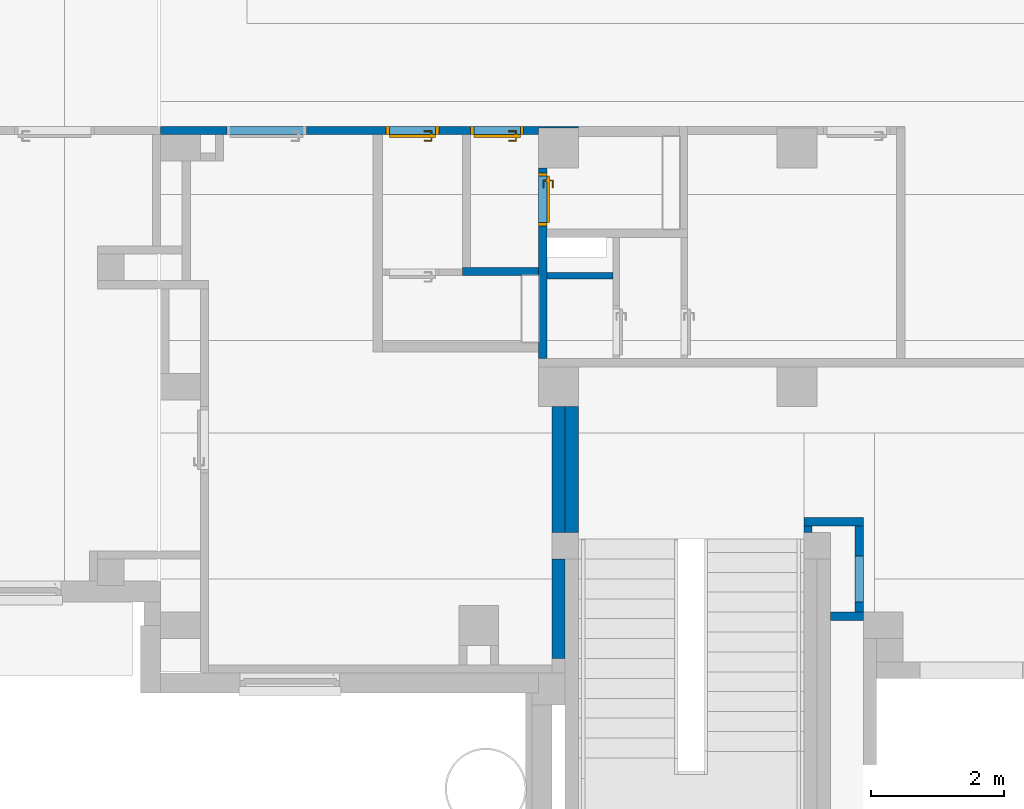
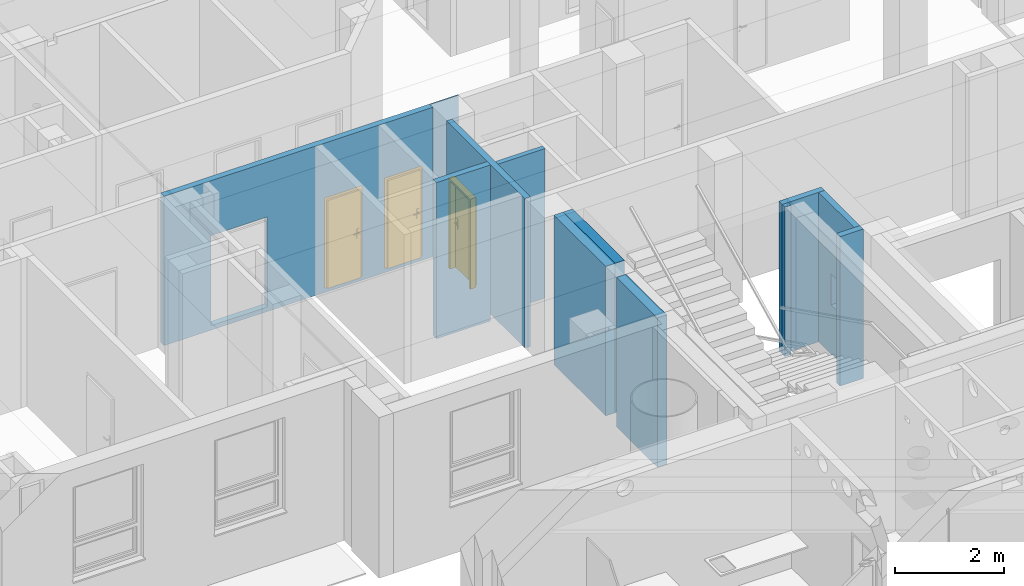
# One storey, part 34 of 140: 11 walls, 3 doors, 5 openings.
"""IFC4 building model written with IfcOpenShell, lengths in metres."""

from ifc_helpers import new_model, entity, si_unit, converted_unit, derived_unit, frame, frame_2d, origin, origin_with_axes, place, context, subcontext, project, spatial, polyline, rectangle, outline, extrude, closed_shell, open_shell, surface_model, source, transform, mapped, material, layer, layer_set, layer_usage, type_object, element, fill, save


model = new_model("IFC4")

# Units and contexts
model_context = context("Model", 3, precision=1e-05, world=origin())
body_context = subcontext(model_context, "Body", "Model", "MODEL_VIEW")
ifc_project = project(units=[si_unit("LENGTHUNIT", "METRE"), si_unit("AREAUNIT", "SQUARE_METRE"), si_unit("VOLUMEUNIT", "CUBIC_METRE"), si_unit("MASSUNIT", "GRAM", prefix="KILO"), converted_unit("PLANEANGLEUNIT", "DEGREE", entity("IfcPlaneAngleMeasure", 0.0174532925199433), si_unit("PLANEANGLEUNIT", "RADIAN"), dimensions=[0, 0, 0, 0, 0, 0, 0]), derived_unit("THERMALTRANSMITTANCEUNIT", [(si_unit("POWERUNIT", "WATT"), 1), (si_unit("THERMODYNAMICTEMPERATUREUNIT", "KELVIN"), -1), (si_unit("LENGTHUNIT", "METRE"), -2)]), derived_unit("VOLUMETRICFLOWRATEUNIT", [(si_unit("LENGTHUNIT", "METRE"), 3), (converted_unit("TIMEUNIT", "hour", entity("IfcTimeMeasure", 3600.0), si_unit("TIMEUNIT", "SECOND"), dimensions=[0, 0, 1, 0, 0, 0, 0]), -1), (si_unit("LENGTHUNIT", "METRE"), -1)])], contexts=[model_context])

# Site, building, storey
site_placement = place(None, origin())
site = spatial("IfcSite", under=ifc_project, at=site_placement, Name="3. ASŘ", CompositionType="ELEMENT")
building_placement = place(site_placement, origin())
building = spatial("IfcBuilding", under=site, at=building_placement, Name="Pavilon C", CompositionType="ELEMENT")
storey_placement = place(building_placement, origin())
storey = spatial("IfcBuildingStorey", under=building, at=storey_placement, Name="Půdorys 1.NP", CompositionType="ELEMENT", Elevation=0.0)

# Walls
ifc_material_1 = material(Name="ZELEZOBETONOVÁ KCE")
ifc_layer_1 = layer(ifc_material_1, 0.2)
ifc_layer_set_1 = layer_set([ifc_layer_1])
ifc_layer_usage_1 = layer_usage(ifc_layer_set_1, "AXIS2", "POSITIVE", 0.0)
wall_1_placement = place(storey_placement, frame((30.85, 1.4, -0.1), z_axis=(0.0, 0.0, 1.0), x_axis=(0.0, 1.0, 0.0)))
element("IfcWall", 1, at=wall_1_placement, inside=storey, material=ifc_layer_usage_1, Name="ZELEZOBETONOVÁ KCE", context=body_context, shape_type="SweptSolid", body=[
    extrude(rectangle(XDim=1.9, YDim=0.2, at=frame_2d((0.949999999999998, 0.1), x_axis=(1.0, 0.0))), origin_with_axes(), (0.0, 0.0, 1.0), 3.35),
])
ifc_material_2 = material(Name="ZELEZOBETONOVÁ KCE")
ifc_layer_2 = layer(ifc_material_2, 0.2)
ifc_layer_set_2 = layer_set([ifc_layer_2])
ifc_layer_usage_2 = layer_usage(ifc_layer_set_2, "AXIS2", "POSITIVE", 0.0)
wall_2_placement = place(storey_placement, frame((30.85, -0.499999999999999, -0.1), z_axis=(0.0, 0.0, 1.0), x_axis=(0.0, 1.0, 0.0)))
element("IfcWall", 2, at=wall_2_placement, inside=storey, material=ifc_layer_usage_2, Name="ZELEZOBETONOVÁ KCE", context=body_context, shape_type="SweptSolid", body=[
    extrude(rectangle(XDim=1.5, YDim=0.2, at=frame_2d((0.75, 0.1), x_axis=(1.0, 0.0))), origin_with_axes(), (0.0, 0.0, 1.0), 3.35),
])
ifc_material_3 = material(Name="ZELEZOBETONOVÁ KCE")
ifc_layer_3 = layer(ifc_material_3, 0.2)
ifc_layer_set_3 = layer_set([ifc_layer_3])
ifc_layer_usage_3 = layer_usage(ifc_layer_set_3, "AXIS2", "POSITIVE", 0.0)
wall_3_placement = place(storey_placement, frame((31.05, 1.4, -0.1), z_axis=(0.0, 0.0, 1.0), x_axis=(0.0, 1.0, 0.0)))
element("IfcWall", 3, at=wall_3_placement, inside=storey, material=ifc_layer_usage_3, Name="ZELEZOBETONOVÁ KCE", context=body_context, shape_type="SweptSolid", body=[
    extrude(rectangle(XDim=1.9, YDim=0.2, at=frame_2d((0.949999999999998, 0.1), x_axis=(1.0, 0.0))), origin_with_axes(), (0.0, 0.0, 1.0), 3.35),
])
ifc_material_4 = material(Name="ZDIVO Z CDm")
ifc_layer_4 = layer(ifc_material_4, 0.125)
ifc_layer_set_4 = layer_set([ifc_layer_4])
ifc_layer_usage_4 = layer_usage(ifc_layer_set_4, "AXIS2", "POSITIVE", 0.0)
wall_4_placement = place(storey_placement, frame((35.35, 0.199999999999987, -0.1), z_axis=(0.0, 0.0, 1.0), x_axis=(-1.0, 1.13686837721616e-16, 0.0)))
element("IfcWall", 4, at=wall_4_placement, inside=storey, material=ifc_layer_usage_4, Name="ZDIVO Z CDm", context=body_context, shape_type="SweptSolid", body=[
    extrude(rectangle(XDim=0.5, YDim=0.125, at=frame_2d((0.25, 0.0625), x_axis=(1.0, 0.0))), origin_with_axes(), (0.0, 0.0, 1.0), 3.35),
])
ifc_material_5 = material(Name="ZDIVO Z CDm")
ifc_layer_5 = layer(ifc_material_5, 0.125)
ifc_layer_set_5 = layer_set([ifc_layer_5])
ifc_layer_usage_5 = layer_usage(ifc_layer_set_5, "AXIS2", "POSITIVE", 0.0)
wall_5_placement = place(storey_placement, frame((34.45, 1.5, -0.1), z_axis=(0.0, 0.0, 1.0), x_axis=(0.0, -1.0, 0.0)))
element("IfcWall", 5, at=wall_5_placement, inside=storey, material=ifc_layer_usage_5, Name="ZDIVO Z CDm", context=body_context, shape_type="SweptSolid", body=[
    extrude(rectangle(XDim=0.1, YDim=0.125, at=frame_2d((0.05, 0.0625), x_axis=(1.0, 0.0))), origin_with_axes(), (0.0, 0.0, 1.0), 3.35),
])
ifc_material_6 = material(Name="ZDIVO Z CDm")
ifc_layer_6 = layer(ifc_material_6, 0.125)
ifc_layer_set_6 = layer_set([ifc_layer_6])
ifc_layer_usage_6 = layer_usage(ifc_layer_set_6, "AXIS2", "POSITIVE", 0.0)
wall_6_placement = place(storey_placement, frame((34.45, 1.5, -0.1)))
element("IfcWall", 6, at=wall_6_placement, inside=storey, material=ifc_layer_usage_6, Name="ZDIVO Z CDm", context=body_context, shape_type="SweptSolid", body=[
    extrude(rectangle(XDim=0.900000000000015, YDim=0.125, at=frame_2d((0.450000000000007, 0.0625), x_axis=(1.0, 0.0))), origin_with_axes(), (0.0, 0.0, 1.0), 3.35),
])

# Wall, opening
ifc_material_7 = material(Name="ZDIVO Z CDm")
ifc_layer_7 = layer(ifc_material_7, 0.125)
ifc_layer_set_7 = layer_set([ifc_layer_7])
ifc_layer_usage_7 = layer_usage(ifc_layer_set_7, "AXIS2", "POSITIVE", 0.0)
wall_7_placement = place(storey_placement, frame((35.35, 0.199999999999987, -0.1), z_axis=(0.0, 0.0, 1.0), x_axis=(0.0, 1.0, 0.0)))
wall_7 = element("IfcWall", 7, at=wall_7_placement, inside=storey, material=ifc_layer_usage_7, Name="ZDIVO Z CDm", context=body_context, shape_type="SweptSolid", body=[
    extrude(rectangle(XDim=1.30000000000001, YDim=0.125, at=frame_2d((0.650000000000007, 0.0625), x_axis=(1.0, 0.0))), origin_with_axes(), (0.0, 0.0, 1.0), 3.35),
])
opening_1_placement = place(wall_7_placement, frame((0.15, 0.0, 1.1), z_axis=(0.0, 1.0, 0.0), x_axis=(0.0, 0.0, 1.0)))
element("IfcOpeningElement", 8, at=opening_1_placement, cuts=wall_7, Name="Okenní otvor", ObjectType="Opening", context=body_context, shape_type="SweptSolid", body=[
    extrude(outline(polyline([(0.0, 0.7), (0.7, 0.7), (0.7, 0.0), (0.0, 0.0), (0.0, 0.7)])), origin_with_axes(), (0.0, 0.0, 1.0), 0.125),
])

# Wall, opening, door
ifc_material_8 = material(Name="ZDIVO Z CDm")
ifc_layer_8 = layer(ifc_material_8, 0.125)
ifc_layer_set_8 = layer_set([ifc_layer_8])
ifc_layer_usage_8 = layer_usage(ifc_layer_set_8, "AXIS2", "POSITIVE", 0.0)
wall_8_placement = place(storey_placement, frame((30.45, 6.9, -0.1), z_axis=(0.0, 0.0, 1.0), x_axis=(0.0, -1.0, 0.0)))
wall_8 = element("IfcWall", 9, at=wall_8_placement, inside=storey, material=ifc_layer_usage_8, Name="ZDIVO Z CDm", context=body_context, shape_type="SweptSolid", body=[
    extrude(rectangle(XDim=2.875, YDim=0.125, at=frame_2d((1.4375, 0.0625), x_axis=(1.0, 0.0))), origin_with_axes(), (0.0, 0.0, 1.0), 3.35),
])
opening_2_placement = place(wall_8_placement, frame((0.875000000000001, 0.125, 0.1), z_axis=(0.0, -1.0, 0.0), x_axis=(0.0, 0.0, 1.0)))
opening_2 = element("IfcOpeningElement", 10, at=opening_2_placement, cuts=wall_8, Name="Dveřní otvor", ObjectType="Opening", context=body_context, shape_type="SweptSolid", body=[
    extrude(outline(polyline([(0.0, 0.8), (2.02, 0.8), (2.02, 0.0), (0.0, 0.0), (0.0, 0.8)])), origin_with_axes(), (0.0, 0.0, 1.0), 0.125),
])
door_type_1 = type_object("IfcDoorType", Name="D101", OperationType="NOTDEFINED", ParameterTakesPrecedence=False, PredefinedType="DOOR")
shared_shape_1 = source(origin_with_axes(), body_context, "Body", "SurfaceModel", [
    surface_model("IfcShellBasedSurfaceModel", [(0.0, 0.125, 2.02), (0.0, 0.125, -7.65404249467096e-18), (0.05, 0.125, -7.65404249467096e-18), (0.05, 0.125, 2.02), (0.0, 0.0, 7.65404249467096e-18), (0.0, 2.41584530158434e-16, 2.02), (0.05, 2.41584530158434e-16, 2.02), (0.05, 0.0, 7.65404249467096e-18)], [closed_shell([[[0, 1, 2, 3]], [[4, 5, 6, 7]], [[1, 0, 5, 4]], [[2, 1, 4, 7]], [[3, 2, 7, 6]], [[0, 3, 6, 5]]], orient=[[False], [False], [False], [False], [False], [False]])]),
    surface_model("IfcShellBasedSurfaceModel", [(0.75, 0.125, 2.02), (0.75, 0.125, -7.65404249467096e-18), (0.8, 0.125, -7.65404249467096e-18), (0.8, 0.125, 2.02), (0.75, 0.0, 7.65404249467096e-18), (0.75, 2.41584530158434e-16, 2.02), (0.8, 2.41584530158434e-16, 2.02), (0.8, 0.0, 7.65404249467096e-18)], [closed_shell([[[0, 1, 2, 3]], [[4, 5, 6, 7]], [[1, 0, 5, 4]], [[2, 1, 4, 7]], [[3, 2, 7, 6]], [[0, 3, 6, 5]]], orient=[[False], [False], [False], [False], [False], [False]])]),
    surface_model("IfcShellBasedSurfaceModel", [(0.05, 0.125, 2.02), (0.05, 0.125, 1.97), (0.75, 0.125, 1.97), (0.75, 0.125, 2.02), (0.05, 2.41584530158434e-16, 1.97), (0.05, 2.41584530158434e-16, 2.02), (0.75, 2.41584530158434e-16, 2.02), (0.75, 2.41584530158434e-16, 1.97)], [closed_shell([[[0, 1, 2, 3]], [[4, 5, 6, 7]], [[1, 0, 5, 4]], [[2, 1, 4, 7]], [[3, 2, 7, 6]], [[0, 3, 6, 5]]], orient=[[False], [False], [False], [False], [False], [False]])]),
    surface_model("IfcShellBasedSurfaceModel", [(0.05, 0.165, 1.97), (0.05, 0.165, -1.25526296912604e-17), (0.75, 0.165, -1.25526296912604e-17), (0.75, 0.165, 1.97), (0.05, 0.125, -7.65404249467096e-18), (0.05, 0.125, 1.97), (0.75, 0.125, 1.97), (0.75, 0.125, -7.65404249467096e-18)], [closed_shell([[[0, 1, 2, 3]], [[4, 5, 6, 7]], [[1, 0, 5, 4]], [[2, 1, 4, 7]], [[3, 2, 7, 6]], [[0, 3, 6, 5]]], orient=[[False], [False], [False], [False], [False], [False]])]),
    surface_model("IfcShellBasedSurfaceModel", [(0.66, 0.125, 1.125), (0.66, 0.125, 0.91), (0.71, 0.125, 0.91), (0.71, 0.125, 1.125), (0.66, 0.115, 0.91), (0.66, 0.115, 1.125), (0.71, 0.115, 1.125), (0.71, 0.115, 0.91)], [closed_shell([[[0, 1, 2, 3]], [[4, 5, 6, 7]], [[1, 0, 5, 4]], [[2, 1, 4, 7]], [[3, 2, 7, 6]], [[0, 3, 6, 5]]], orient=[[False], [False], [False], [False], [False], [False]])]),
    surface_model("IfcShellBasedSurfaceModel", [(0.685, 0.115, 1.06), (0.68, 0.115, 1.05866025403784), (0.676339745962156, 0.115, 1.055), (0.675, 0.115, 1.05), (0.676339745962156, 0.115, 1.045), (0.68, 0.115, 1.04133974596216), (0.685, 0.115, 1.04), (0.69, 0.115, 1.04133974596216), (0.693660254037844, 0.115, 1.045), (0.695, 0.115, 1.05), (0.693660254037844, 0.115, 1.055), (0.69, 0.115, 1.05866025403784), (0.69, 0.0700000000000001, 1.05866025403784), (0.685, 0.0750000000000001, 1.06), (0.693660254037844, 0.0663397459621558, 1.055), (0.695, 0.0650000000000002, 1.05), (0.693660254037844, 0.0663397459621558, 1.045), (0.69, 0.0700000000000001, 1.04133974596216), (0.685, 0.0750000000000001, 1.04), (0.68, 0.0800000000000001, 1.04133974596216), (0.676339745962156, 0.0836602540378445, 1.045), (0.675, 0.0850000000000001, 1.05), (0.676339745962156, 0.0836602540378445, 1.055), (0.68, 0.0800000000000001, 1.05866025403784), (0.57, 0.0700000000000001, 1.05866025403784), (0.57, 0.0750000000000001, 1.06), (0.57, 0.0663397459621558, 1.055), (0.57, 0.0650000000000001, 1.05), (0.57, 0.0663397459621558, 1.045), (0.57, 0.0700000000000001, 1.04133974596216), (0.57, 0.0750000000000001, 1.04), (0.57, 0.0800000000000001, 1.04133974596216), (0.57, 0.0836602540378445, 1.045), (0.57, 0.0850000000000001, 1.05), (0.57, 0.0836602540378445, 1.055), (0.57, 0.0800000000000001, 1.05866025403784)], [open_shell([[[0, 1, 2, 3, 4, 5, 6, 7, 8, 9, 10, 11]], [[0, 11, 12, 13]], [[11, 10, 14, 12]], [[10, 9, 15, 14]], [[9, 8, 16, 15]], [[8, 7, 17, 16]], [[7, 6, 18, 17]], [[6, 5, 19, 18]], [[5, 4, 20, 19]], [[4, 3, 21, 20]], [[3, 2, 22, 21]], [[2, 1, 23, 22]], [[1, 0, 13, 23]], [[13, 12, 24, 25]], [[12, 14, 26, 24]], [[14, 15, 27, 26]], [[15, 16, 28, 27]], [[16, 17, 29, 28]], [[17, 18, 30, 29]], [[18, 19, 31, 30]], [[19, 20, 32, 31]], [[20, 21, 33, 32]], [[21, 22, 34, 33]], [[22, 23, 35, 34]], [[23, 13, 25, 35]]], orient=[[False], [False], [False], [False], [False], [False], [False], [False], [False], [False], [False], [False], [False], [False], [False], [False], [False], [False], [False], [False], [False], [False], [False], [False], [False]])]),
    surface_model("IfcShellBasedSurfaceModel", [(0.66, 0.165, 1.125), (0.71, 0.165, 1.125), (0.71, 0.165, 0.91), (0.66, 0.165, 0.91), (0.66, 0.175, 0.91), (0.71, 0.175, 0.91), (0.71, 0.175, 1.125), (0.66, 0.175, 1.125)], [closed_shell([[[0, 1, 2, 3]], [[4, 5, 6, 7]], [[3, 4, 7, 0]], [[2, 5, 4, 3]], [[1, 6, 5, 2]], [[0, 7, 6, 1]]], orient=[[False], [False], [False], [False], [False], [False]])]),
    surface_model("IfcShellBasedSurfaceModel", [(0.685, 0.175, 1.06), (0.69, 0.175, 1.05866025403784), (0.693660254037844, 0.175, 1.055), (0.695, 0.175, 1.05), (0.693660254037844, 0.175, 1.045), (0.69, 0.175, 1.04133974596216), (0.685, 0.175, 1.04), (0.68, 0.175, 1.04133974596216), (0.676339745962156, 0.175, 1.045), (0.675, 0.175, 1.05), (0.676339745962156, 0.175, 1.055), (0.68, 0.175, 1.05866025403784), (0.685, 0.215, 1.06), (0.69, 0.22, 1.05866025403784), (0.693660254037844, 0.223660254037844, 1.055), (0.695, 0.225, 1.05), (0.693660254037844, 0.223660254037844, 1.045), (0.69, 0.22, 1.04133974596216), (0.685, 0.215, 1.04), (0.68, 0.21, 1.04133974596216), (0.676339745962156, 0.206339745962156, 1.045), (0.675, 0.205, 1.05), (0.676339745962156, 0.206339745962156, 1.055), (0.68, 0.21, 1.05866025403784), (0.57, 0.215, 1.06), (0.57, 0.22, 1.05866025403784), (0.57, 0.223660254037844, 1.055), (0.57, 0.225, 1.05), (0.57, 0.223660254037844, 1.045), (0.57, 0.22, 1.04133974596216), (0.57, 0.215, 1.04), (0.57, 0.21, 1.04133974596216), (0.57, 0.206339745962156, 1.045), (0.57, 0.205, 1.05), (0.57, 0.206339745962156, 1.055), (0.57, 0.21, 1.05866025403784)], [open_shell([[[0, 1, 2, 3, 4, 5, 6, 7, 8, 9, 10, 11]], [[0, 12, 13, 1]], [[1, 13, 14, 2]], [[2, 14, 15, 3]], [[3, 15, 16, 4]], [[4, 16, 17, 5]], [[5, 17, 18, 6]], [[6, 18, 19, 7]], [[7, 19, 20, 8]], [[8, 20, 21, 9]], [[9, 21, 22, 10]], [[10, 22, 23, 11]], [[11, 23, 12, 0]], [[12, 24, 25, 13]], [[13, 25, 26, 14]], [[14, 26, 27, 15]], [[15, 27, 28, 16]], [[16, 28, 29, 17]], [[17, 29, 30, 18]], [[18, 30, 31, 19]], [[19, 31, 32, 20]], [[20, 32, 33, 21]], [[21, 33, 34, 22]], [[22, 34, 35, 23]], [[23, 35, 24, 12]]], orient=[[False], [False], [False], [False], [False], [False], [False], [False], [False], [False], [False], [False], [False], [False], [False], [False], [False], [False], [False], [False], [False], [False], [False], [False], [False]])]),
])
door_1_placement = place(opening_2_placement, frame((0.0, -1.81898940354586e-15, 0.125000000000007), z_axis=(1.0, 0.0, 0.0), x_axis=(0.0, 1.0, -2.44929359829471e-16)))
door_1 = element("IfcDoor", 11, at=door_1_placement, inside=storey, type_object=door_type_1, Name="D101", OverallHeight=2.02, OverallWidth=0.8, context=body_context, shape_type="MappedRepresentation", body=[
    mapped(shared_shape_1, transform((0.0, 0.0, 0.0), x_axis=(1.0, 0.0, 0.0), y_axis=(0.0, -1.0, 0.0), z_axis=(0.0, 0.0, 1.0), scale=1.0)),
])
fill(opening_2, door_1)

# Wall, openings, doors
ifc_material_9 = material(Name="ZDIVO Z CDm")
ifc_layer_9 = layer(ifc_material_9, 0.125)
ifc_layer_set_9 = layer_set([ifc_layer_9])
ifc_layer_usage_9 = layer_usage(ifc_layer_set_9, "AXIS2", "POSITIVE", 0.0)
wall_9_placement = place(storey_placement, frame((31.05, 7.525, -0.1), z_axis=(0.0, 0.0, 1.0), x_axis=(-1.0, 0.0, 0.0)))
wall_9 = element("IfcWall", 12, at=wall_9_placement, inside=storey, material=ifc_layer_usage_9, Name="ZDIVO Z CDm", context=body_context, shape_type="SweptSolid", body=[
    extrude(outline(polyline([(-6.3, -0.125), (0.0, -0.125), (0.0, 0.0), (-5.7, 0.0), (-5.7, -0.0999999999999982), (-6.3, -0.0999999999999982), (-6.3, -0.125)])), frame((6.3, 0.125, 0.0), z_axis=(0.0, 0.0, 1.0), x_axis=(1.0, 0.0, 0.0)), (0.0, 0.0, 1.0), 3.35),
])
opening_3_placement = place(wall_9_placement, frame((4.1, 0.0, 0.1), z_axis=(0.0, 1.0, 0.0), x_axis=(0.0, 0.0, 1.0)))
element("IfcOpeningElement", 13, at=opening_3_placement, cuts=wall_9, Name="Dveřní otvor", ObjectType="Opening", context=body_context, shape_type="SweptSolid", body=[
    extrude(outline(polyline([(0.0, 1.2), (2.02, 1.2), (2.02, 0.0), (0.0, 0.0), (0.0, 1.2)])), origin_with_axes(), (0.0, 0.0, 1.0), 0.125),
])
opening_4_placement = place(wall_9_placement, frame((1.62499999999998, 0.125, 0.1), z_axis=(0.0, -1.0, 0.0), x_axis=(0.0, 0.0, 1.0)))
opening_4 = element("IfcOpeningElement", 14, at=opening_4_placement, cuts=wall_9, Name="Dveřní otvor", ObjectType="Opening", context=body_context, shape_type="SweptSolid", body=[
    extrude(outline(polyline([(0.0, 0.8), (2.02, 0.8), (2.02, 0.0), (0.0, 0.0), (0.0, 0.8)])), origin_with_axes(), (0.0, 0.0, 1.0), 0.125),
])
opening_5_placement = place(wall_9_placement, frame((2.09999999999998, 0.0, 0.1), z_axis=(0.0, 1.0, 0.0), x_axis=(0.0, 0.0, 1.0)))
opening_5 = element("IfcOpeningElement", 15, at=opening_5_placement, cuts=wall_9, Name="Dveřní otvor", ObjectType="Opening", context=body_context, shape_type="SweptSolid", body=[
    extrude(outline(polyline([(0.0, 0.8), (2.02, 0.8), (2.02, 0.0), (0.0, 0.0), (0.0, 0.8)])), origin_with_axes(), (0.0, 0.0, 1.0), 0.125),
])
door_type_2 = type_object("IfcDoorType", Name="D101", OperationType="NOTDEFINED", ParameterTakesPrecedence=False, PredefinedType="DOOR")
door_2_placement = place(opening_4_placement, frame((0.0, 0.0, 0.125), z_axis=(1.0, 0.0, 0.0), x_axis=(0.0, 1.0, -1.22464679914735e-16)))
door_2 = element("IfcDoor", 16, at=door_2_placement, inside=storey, type_object=door_type_2, Name="D101", OverallHeight=2.02, OverallWidth=0.8, context=body_context, shape_type="MappedRepresentation", body=[
    mapped(shared_shape_1, transform((0.0, 0.0, 0.0), x_axis=(1.0, 0.0, 0.0), y_axis=(0.0, -1.0, 0.0), z_axis=(0.0, 0.0, 1.0), scale=1.0)),
])
fill(opening_4, door_2)
door_type_3 = type_object("IfcDoorType", Name="D101", OperationType="NOTDEFINED", ParameterTakesPrecedence=False, PredefinedType="DOOR")
shared_shape_2 = source(origin_with_axes(), body_context, "Body", "SurfaceModel", [
    surface_model("IfcShellBasedSurfaceModel", [(0.0, 0.125, 2.02), (0.0, 0.125, -7.65404249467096e-18), (0.05, 0.125, -7.65404249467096e-18), (0.05, 0.125, 2.02), (0.0, 0.0, 7.65404249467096e-18), (0.0, 2.41584530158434e-16, 2.02), (0.05, 2.41584530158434e-16, 2.02), (0.05, 0.0, 7.65404249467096e-18)], [closed_shell([[[0, 1, 2, 3]], [[4, 5, 6, 7]], [[1, 0, 5, 4]], [[2, 1, 4, 7]], [[3, 2, 7, 6]], [[0, 3, 6, 5]]], orient=[[False], [False], [False], [False], [False], [False]])]),
    surface_model("IfcShellBasedSurfaceModel", [(0.75, 0.125, 2.02), (0.75, 0.125, -7.65404249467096e-18), (0.8, 0.125, -7.65404249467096e-18), (0.8, 0.125, 2.02), (0.75, 0.0, 7.65404249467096e-18), (0.75, 2.41584530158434e-16, 2.02), (0.8, 2.41584530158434e-16, 2.02), (0.8, 0.0, 7.65404249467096e-18)], [closed_shell([[[0, 1, 2, 3]], [[4, 5, 6, 7]], [[1, 0, 5, 4]], [[2, 1, 4, 7]], [[3, 2, 7, 6]], [[0, 3, 6, 5]]], orient=[[False], [False], [False], [False], [False], [False]])]),
    surface_model("IfcShellBasedSurfaceModel", [(0.05, 0.125, 2.02), (0.05, 0.125, 1.97), (0.75, 0.125, 1.97), (0.75, 0.125, 2.02), (0.05, 2.41584530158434e-16, 1.97), (0.05, 2.41584530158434e-16, 2.02), (0.75, 2.41584530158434e-16, 2.02), (0.75, 2.41584530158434e-16, 1.97)], [closed_shell([[[0, 1, 2, 3]], [[4, 5, 6, 7]], [[1, 0, 5, 4]], [[2, 1, 4, 7]], [[3, 2, 7, 6]], [[0, 3, 6, 5]]], orient=[[False], [False], [False], [False], [False], [False]])]),
    surface_model("IfcShellBasedSurfaceModel", [(0.05, 0.165, 1.97), (0.05, 0.165, -1.25526296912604e-17), (0.75, 0.165, -1.25526296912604e-17), (0.75, 0.165, 1.97), (0.05, 0.125, -7.65404249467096e-18), (0.05, 0.125, 1.97), (0.75, 0.125, 1.97), (0.75, 0.125, -7.65404249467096e-18)], [closed_shell([[[0, 1, 2, 3]], [[4, 5, 6, 7]], [[1, 0, 5, 4]], [[2, 1, 4, 7]], [[3, 2, 7, 6]], [[0, 3, 6, 5]]], orient=[[False], [False], [False], [False], [False], [False]])]),
    surface_model("IfcShellBasedSurfaceModel", [(0.66, 0.125, 1.125), (0.66, 0.125, 0.91), (0.71, 0.125, 0.91), (0.71, 0.125, 1.125), (0.66, 0.115, 0.91), (0.66, 0.115, 1.125), (0.71, 0.115, 1.125), (0.71, 0.115, 0.91)], [closed_shell([[[0, 1, 2, 3]], [[4, 5, 6, 7]], [[1, 0, 5, 4]], [[2, 1, 4, 7]], [[3, 2, 7, 6]], [[0, 3, 6, 5]]], orient=[[False], [False], [False], [False], [False], [False]])]),
    surface_model("IfcShellBasedSurfaceModel", [(0.685, 0.115, 1.06), (0.68, 0.115, 1.05866025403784), (0.676339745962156, 0.115, 1.055), (0.675, 0.115, 1.05), (0.676339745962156, 0.115, 1.045), (0.68, 0.115, 1.04133974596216), (0.685, 0.115, 1.04), (0.69, 0.115, 1.04133974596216), (0.693660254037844, 0.115, 1.045), (0.695, 0.115, 1.05), (0.693660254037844, 0.115, 1.055), (0.69, 0.115, 1.05866025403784), (0.69, 0.0700000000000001, 1.05866025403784), (0.685, 0.0750000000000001, 1.06), (0.693660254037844, 0.0663397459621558, 1.055), (0.695, 0.0650000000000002, 1.05), (0.693660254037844, 0.0663397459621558, 1.045), (0.69, 0.0700000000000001, 1.04133974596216), (0.685, 0.0750000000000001, 1.04), (0.68, 0.0800000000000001, 1.04133974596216), (0.676339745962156, 0.0836602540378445, 1.045), (0.675, 0.0850000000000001, 1.05), (0.676339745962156, 0.0836602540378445, 1.055), (0.68, 0.0800000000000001, 1.05866025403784), (0.57, 0.0700000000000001, 1.05866025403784), (0.57, 0.0750000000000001, 1.06), (0.57, 0.0663397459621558, 1.055), (0.57, 0.0650000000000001, 1.05), (0.57, 0.0663397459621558, 1.045), (0.57, 0.0700000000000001, 1.04133974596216), (0.57, 0.0750000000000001, 1.04), (0.57, 0.0800000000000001, 1.04133974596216), (0.57, 0.0836602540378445, 1.045), (0.57, 0.0850000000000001, 1.05), (0.57, 0.0836602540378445, 1.055), (0.57, 0.0800000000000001, 1.05866025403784)], [open_shell([[[0, 1, 2, 3, 4, 5, 6, 7, 8, 9, 10, 11]], [[0, 11, 12, 13]], [[11, 10, 14, 12]], [[10, 9, 15, 14]], [[9, 8, 16, 15]], [[8, 7, 17, 16]], [[7, 6, 18, 17]], [[6, 5, 19, 18]], [[5, 4, 20, 19]], [[4, 3, 21, 20]], [[3, 2, 22, 21]], [[2, 1, 23, 22]], [[1, 0, 13, 23]], [[13, 12, 24, 25]], [[12, 14, 26, 24]], [[14, 15, 27, 26]], [[15, 16, 28, 27]], [[16, 17, 29, 28]], [[17, 18, 30, 29]], [[18, 19, 31, 30]], [[19, 20, 32, 31]], [[20, 21, 33, 32]], [[21, 22, 34, 33]], [[22, 23, 35, 34]], [[23, 13, 25, 35]]], orient=[[False], [False], [False], [False], [False], [False], [False], [False], [False], [False], [False], [False], [False], [False], [False], [False], [False], [False], [False], [False], [False], [False], [False], [False], [False]])]),
    surface_model("IfcShellBasedSurfaceModel", [(0.66, 0.165, 1.125), (0.71, 0.165, 1.125), (0.71, 0.165, 0.91), (0.66, 0.165, 0.91), (0.66, 0.175, 0.91), (0.71, 0.175, 0.91), (0.71, 0.175, 1.125), (0.66, 0.175, 1.125)], [closed_shell([[[0, 1, 2, 3]], [[4, 5, 6, 7]], [[3, 4, 7, 0]], [[2, 5, 4, 3]], [[1, 6, 5, 2]], [[0, 7, 6, 1]]], orient=[[False], [False], [False], [False], [False], [False]])]),
    surface_model("IfcShellBasedSurfaceModel", [(0.685, 0.175, 1.06), (0.69, 0.175, 1.05866025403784), (0.693660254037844, 0.175, 1.055), (0.695, 0.175, 1.05), (0.693660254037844, 0.175, 1.045), (0.69, 0.175, 1.04133974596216), (0.685, 0.175, 1.04), (0.68, 0.175, 1.04133974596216), (0.676339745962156, 0.175, 1.045), (0.675, 0.175, 1.05), (0.676339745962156, 0.175, 1.055), (0.68, 0.175, 1.05866025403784), (0.685, 0.215, 1.06), (0.69, 0.22, 1.05866025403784), (0.693660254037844, 0.223660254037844, 1.055), (0.695, 0.225, 1.05), (0.693660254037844, 0.223660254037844, 1.045), (0.69, 0.22, 1.04133974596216), (0.685, 0.215, 1.04), (0.68, 0.21, 1.04133974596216), (0.676339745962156, 0.206339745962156, 1.045), (0.675, 0.205, 1.05), (0.676339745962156, 0.206339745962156, 1.055), (0.68, 0.21, 1.05866025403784), (0.57, 0.215, 1.06), (0.57, 0.22, 1.05866025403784), (0.57, 0.223660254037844, 1.055), (0.57, 0.225, 1.05), (0.57, 0.223660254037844, 1.045), (0.57, 0.22, 1.04133974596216), (0.57, 0.215, 1.04), (0.57, 0.21, 1.04133974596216), (0.57, 0.206339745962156, 1.045), (0.57, 0.205, 1.05), (0.57, 0.206339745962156, 1.055), (0.57, 0.21, 1.05866025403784)], [open_shell([[[0, 1, 2, 3, 4, 5, 6, 7, 8, 9, 10, 11]], [[0, 12, 13, 1]], [[1, 13, 14, 2]], [[2, 14, 15, 3]], [[3, 15, 16, 4]], [[4, 16, 17, 5]], [[5, 17, 18, 6]], [[6, 18, 19, 7]], [[7, 19, 20, 8]], [[8, 20, 21, 9]], [[9, 21, 22, 10]], [[10, 22, 23, 11]], [[11, 23, 12, 0]], [[12, 24, 25, 13]], [[13, 25, 26, 14]], [[14, 26, 27, 15]], [[15, 27, 28, 16]], [[16, 28, 29, 17]], [[17, 29, 30, 18]], [[18, 30, 31, 19]], [[19, 31, 32, 20]], [[20, 32, 33, 21]], [[21, 33, 34, 22]], [[22, 34, 35, 23]], [[23, 35, 24, 12]]], orient=[[False], [False], [False], [False], [False], [False], [False], [False], [False], [False], [False], [False], [False], [False], [False], [False], [False], [False], [False], [False], [False], [False], [False], [False], [False]])]),
])
door_3_placement = place(opening_5_placement, frame((0.0, 0.8, 0.0), z_axis=(1.0, 0.0, 0.0), x_axis=(0.0, -1.0, 1.22464679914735e-16)))
door_3 = element("IfcDoor", 17, at=door_3_placement, inside=storey, type_object=door_type_3, Name="D101", OverallHeight=2.02, OverallWidth=0.8, context=body_context, shape_type="MappedRepresentation", body=[
    mapped(shared_shape_2, transform((0.0, 0.0, 0.0), x_axis=(1.0, 0.0, 0.0), y_axis=(0.0, -1.0, 0.0), z_axis=(0.0, 0.0, 1.0), scale=1.0)),
])
fill(opening_5, door_3)

# Walls
ifc_material_10 = material(Name="YTONG 100")
ifc_layer_10 = layer(ifc_material_10, 0.1)
ifc_layer_set_10 = layer_set([ifc_layer_10])
ifc_layer_usage_10 = layer_usage(ifc_layer_set_10, "AXIS2", "POSITIVE", 0.0)
wall_10_placement = place(storey_placement, frame((30.575, 5.225, -0.1)))
element("IfcWall", 18, at=wall_10_placement, inside=storey, material=ifc_layer_usage_10, Name="YTONG 100", context=body_context, shape_type="SweptSolid", body=[
    extrude(rectangle(XDim=1.0, YDim=0.1, at=frame_2d((0.5, 0.05), x_axis=(1.0, 0.0))), origin_with_axes(), (0.0, 0.0, 1.0), 3.35),
])
ifc_material_11 = material(Name="YTONG 125")
ifc_layer_11 = layer(ifc_material_11, 0.125)
ifc_layer_set_11 = layer_set([ifc_layer_11])
ifc_layer_usage_11 = layer_usage(ifc_layer_set_11, "AXIS2", "POSITIVE", 0.0)
wall_11_placement = place(storey_placement, frame((29.3, 5.275, -0.25)))
element("IfcWall", 19, at=wall_11_placement, inside=storey, material=ifc_layer_usage_11, Name="YTONG 125", context=body_context, shape_type="SweptSolid", body=[
    extrude(rectangle(XDim=1.14999999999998, YDim=0.125, at=frame_2d((0.574999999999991, 0.0625), x_axis=(1.0, 0.0))), origin_with_axes(), (0.0, 0.0, 1.0), 3.5),
])

save(model, "model.ifc")
